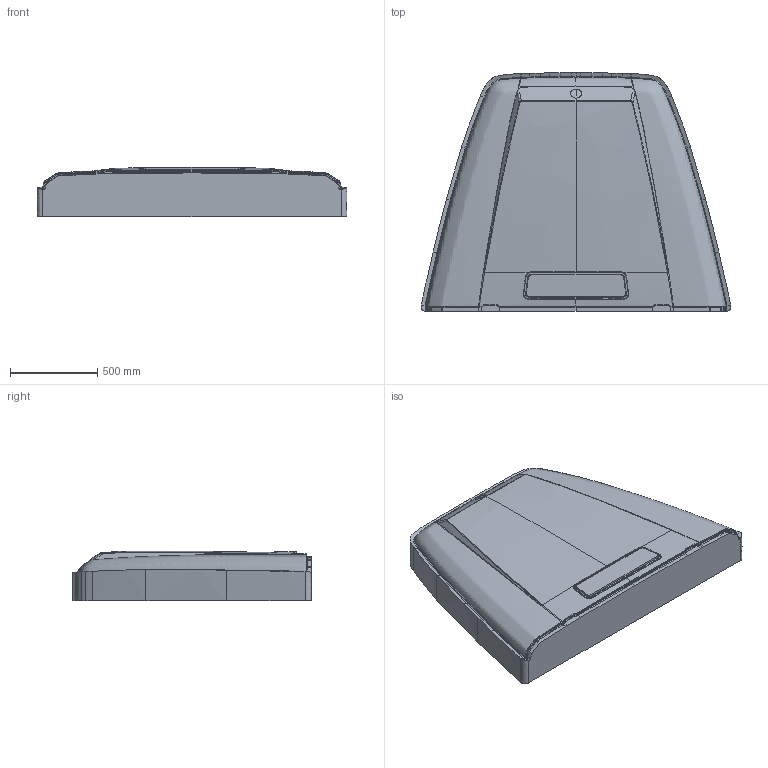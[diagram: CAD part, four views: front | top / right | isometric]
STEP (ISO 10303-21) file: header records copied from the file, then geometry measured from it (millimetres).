
FILE_DESCRIPTION(('STEP AP214'),'1');
FILE_NAME('mecanizado.stp','2019-09-05T19:38:03',(' '),(' '),'Spatial InterOp 3D',' ',' ');
FILE_SCHEMA(('AUTOMOTIVE_DESIGN { 1 0 10303 214 1 1 1 1 }'));
Length unit declared in the file: millimetre
Products named in the file (1): shell_1
Bounding box: 1776.4 x 1367.99 x 285.32 mm (x, y, z)
Surface area: 5210009.9 mm2 (no closed solid volume)
Topology: 0 solids, 1 shells, 397 faces, 1369 edges, 964 vertices
Faces by surface type: bspline 397
Entity records: 345634 total; most frequent: CARTESIAN_POINT 337650, ORIENTED_EDGE 2706, EDGE_CURVE 1357, B_SPLINE_CURVE_WITH_KNOTS 1344, VERTEX_POINT 962, FACE_SURFACE 395, FACE_BOUND 395, EDGE_LOOP 395
